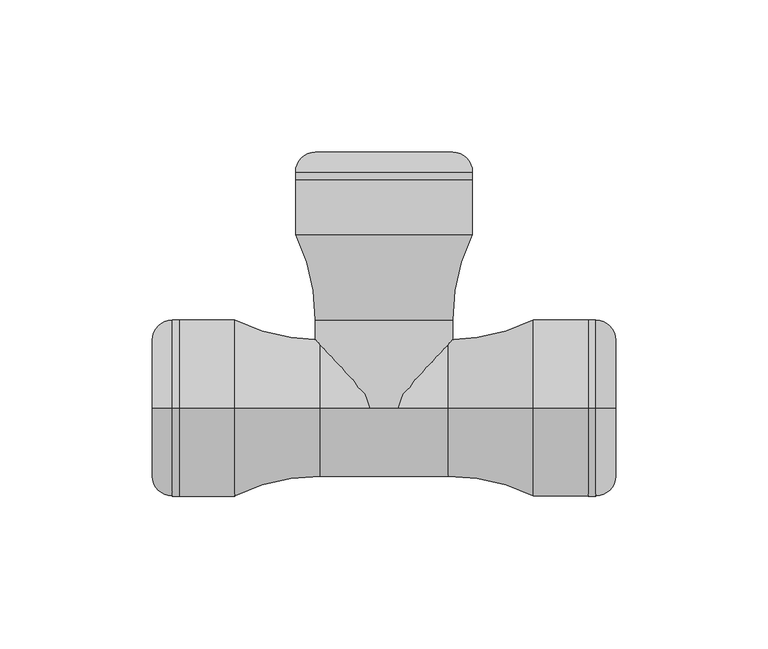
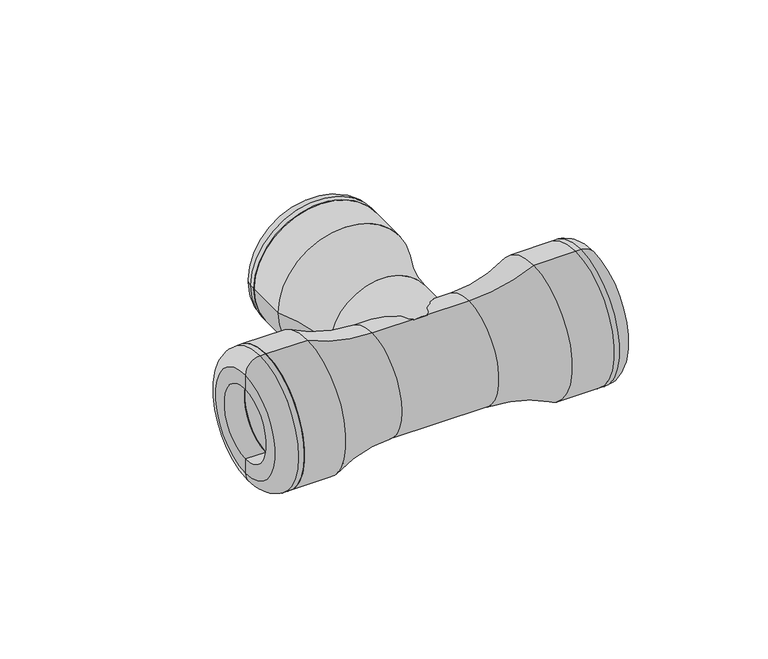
"""IFC4 building model written with IfcOpenShell, lengths in millimetres: pipe fitting geometry, Plumbing_Pipe-Fittings_Plasson_Tee-90_1004 : Plumbing_Pipe-Fittings_Plasson_Tee-90_1004."""

from ifc_helpers import new_model, si_unit, point, frame, origin, place, context, project, spatial, polyline, circle_curve, ellipse_curve, trimmed, source, transform, mapped, element, save
from ifc_brep_helpers import plane_surface, cylinder_surface, revolved_surface, advanced_brep


def pipe_fitting_1734e84b(model_context):
    return source(origin(), model_context, "Body", "AdvancedBrep", [
        advanced_brep(
        [(16.0, 75.0, 0.0), (-16.0, 75.0, 0.0), (-29.0, 75.0, 0.0), (29.0, 75.0, 0.0), (16.0, 84.0, 0.0), (-16.0, 84.0, 0.0), (22.5, 84.0, 0.0), (-22.5, 84.0, 0.0), (29.0, 77.5, 0.0), (-29.0, 77.5, 0.0)],
        [
            (0, 1, circle_curve(frame((0.0, 75.0, 0.0), z_axis=(0.0, 1.0, 0.0), x_axis=(-1.0, 0.0, 0.0)), 16.0)),
            (1, 2),
            (2, 3, circle_curve(frame((0.0, 75.0, 0.0), z_axis=(0.0, -1.0, 0.0), x_axis=(-1.0, 0.0, 0.0)), 29.0)),
            (3, 0),
            (1, 0, circle_curve(frame((0.0, 75.0, 0.0), z_axis=(0.0, 1.0, 0.0), x_axis=(-1.0, 0.0, 0.0)), 16.0)),
            (3, 2, circle_curve(frame((0.0, 75.0, 0.0), z_axis=(0.0, -1.0, 0.0), x_axis=(-1.0, 0.0, 0.0)), 29.0)),
            (4, 5, circle_curve(frame((0.0, 84.0, 0.0), z_axis=(0.0, 1.0, 0.0), x_axis=(-1.0, 0.0, 0.0)), 16.0)),
            (5, 1),
            (0, 4),
            (5, 4, circle_curve(frame((0.0, 84.0, 0.0), z_axis=(0.0, 1.0, 0.0), x_axis=(-1.0, 0.0, 0.0)), 16.0)),
            (6, 7, circle_curve(frame((0.0, 84.0, 0.0), z_axis=(0.0, 1.0, 0.0), x_axis=(-1.0, 0.0, 0.0)), 22.5)),
            (7, 5),
            (4, 6),
            (7, 6, circle_curve(frame((0.0, 84.0, 0.0), z_axis=(0.0, 1.0, 0.0), x_axis=(-1.0, 0.0, 0.0)), 22.5)),
            (8, 9, circle_curve(frame((0.0, 77.5, 0.0), z_axis=(0.0, 1.0, 0.0), x_axis=(-1.0, 0.0, 0.0)), 29.0)),
            (9, 7, circle_curve(frame((-22.5, 77.5, 0.0), z_axis=(0.0, 0.0, -1.0), x_axis=(1.0, 0.0, 0.0)), 6.5)),
            (6, 8, circle_curve(frame((22.5, 77.5, 0.0), z_axis=(0.0, 0.0, -1.0), x_axis=(-1.0, 0.0, 0.0)), 6.5)),
            (9, 8, circle_curve(frame((0.0, 77.5, 0.0), z_axis=(0.0, 1.0, 0.0), x_axis=(-1.0, 0.0, 0.0)), 29.0)),
            (2, 9),
            (8, 3),
        ],
        [
            plane_surface(frame((0.0, 75.0, 0.0), z_axis=(0.0, -1.0, 0.0), x_axis=(-1.0, 0.0, 0.0))),
            revolved_surface(polyline([(-16.0, 75.0, 0.0), (-16.0, 84.0, 0.0)]), (0.0, 87.8144029, 0.0), (0.0, -1.0, 0.0)),
            plane_surface(frame((0.0, 84.0, 0.0), z_axis=(0.0, 1.0, 0.0), x_axis=(-1.0, 0.0, 0.0))),
            revolved_surface(trimmed(ellipse_curve(frame((-22.5, 77.5, 0.0), z_axis=(0.0, 0.0, 1.0), x_axis=(1.0, 0.0, 0.0)), 6.5, 6.5), [point((-22.5, 84.0, 0.0))], [point((-29.0, 77.5, 0.0))], True, "CARTESIAN"), (0.0, 87.8144029, 0.0), (0.0, -1.0, 0.0)),
            cylinder_surface(frame((0.0, 87.8144029, 0.0), z_axis=(0.0, -1.0, 0.0), x_axis=(-1.0, 0.0, 0.0)), 29.0),
        ],
        [
            (0, [[1, 2, 3, 4]]),
            (0, [[5, -4, 6, -2]]),
            (1, [[7, 8, -1, 9]]),
            (1, [[10, -9, -5, -8]]),
            (2, [[11, 12, -7, 13]]),
            (2, [[14, -13, -10, -12]]),
            (3, [[15, 16, -11, 17]]),
            (3, [[18, -17, -14, -16]]),
            (4, [[-3, 19, -15, 20]]),
            (4, [[-6, -20, -18, -19]]),
        ],
    ),
        advanced_brep(
        [(29.0, 57.0, 0.0), (-29.0, 57.0, 0.0), (-29.0, 75.0, 0.0), (29.0, 75.0, 0.0), (16.0, 75.0, 0.0), (-16.0, 75.0, 0.0), (-16.0, 30.0, 0.0), (16.0, 30.0, 0.0), (22.5, 29.0, 0.0), (-22.5, 29.0, 0.0), (22.5, 0.0, 0.0), (-22.5, 0.0, 0.0), (14.0, 0.0, 0.0), (-14.0, 0.0, 0.0), (14.0, 30.0, 0.0), (-14.0, 30.0, 0.0)],
        [
            (0, 1, circle_curve(frame((0.0, 57.0, 0.0), z_axis=(0.0, 1.0, 0.0), x_axis=(-1.0, 0.0, 0.0)), 29.0)),
            (1, 2),
            (2, 3, circle_curve(frame((0.0, 75.0, 0.0), z_axis=(0.0, -1.0, 0.0), x_axis=(-1.0, 0.0, 0.0)), 29.0)),
            (3, 0),
            (1, 0, circle_curve(frame((0.0, 57.0, 0.0), z_axis=(0.0, 1.0, 0.0), x_axis=(-1.0, 0.0, 0.0)), 29.0)),
            (3, 2, circle_curve(frame((0.0, 75.0, 0.0), z_axis=(0.0, -1.0, 0.0), x_axis=(-1.0, 0.0, 0.0)), 29.0)),
            (4, 5, circle_curve(frame((0.0, 75.0, 0.0), z_axis=(0.0, 1.0, 0.0), x_axis=(-1.0, 0.0, 0.0)), 16.0)),
            (5, 6),
            (6, 7, circle_curve(frame((0.0, 30.0, 0.0), z_axis=(0.0, -1.0, 0.0), x_axis=(-1.0, 0.0, 0.0)), 16.0)),
            (7, 4),
            (5, 4, circle_curve(frame((0.0, 75.0, 0.0), z_axis=(0.0, 1.0, 0.0), x_axis=(-1.0, 0.0, 0.0)), 16.0)),
            (7, 6, circle_curve(frame((0.0, 30.0, 0.0), z_axis=(0.0, -1.0, 0.0), x_axis=(-1.0, 0.0, 0.0)), 16.0)),
            (2, 5),
            (4, 3),
            (8, 9, circle_curve(frame((0.0, 29.0, 0.0), z_axis=(0.0, 1.0, 0.0), x_axis=(-1.0, 0.0, 0.0)), 22.5)),
            (9, 1, circle_curve(frame((-86.0576923, 29.0, 0.0), z_axis=(0.0, 0.0, 1.0), x_axis=(1.0, 0.0, 0.0)), 63.5576923)),
            (0, 8, circle_curve(frame((86.0576923, 29.0, 0.0), z_axis=(0.0, 0.0, 1.0), x_axis=(-1.0, 0.0, 0.0)), 63.5576923)),
            (9, 8, circle_curve(frame((0.0, 29.0, 0.0), z_axis=(0.0, 1.0, 0.0), x_axis=(-1.0, 0.0, 0.0)), 22.5)),
            (10, 11, circle_curve(frame((0.0, 0.0, 0.0), z_axis=(0.0, 1.0, 0.0), x_axis=(-1.0, 0.0, 0.0)), 22.5)),
            (11, 9),
            (8, 10),
            (11, 10, circle_curve(frame((0.0, 0.0, 0.0), z_axis=(0.0, 1.0, 0.0), x_axis=(-1.0, 0.0, 0.0)), 22.5)),
            (12, 13, circle_curve(frame((0.0, 0.0, 0.0), z_axis=(0.0, 1.0, 0.0), x_axis=(-1.0, 0.0, 0.0)), 14.0)),
            (13, 11),
            (10, 12),
            (13, 12, circle_curve(frame((0.0, 0.0, 0.0), z_axis=(0.0, 1.0, 0.0), x_axis=(-1.0, 0.0, 0.0)), 14.0)),
            (14, 15, circle_curve(frame((0.0, 30.0, 0.0), z_axis=(0.0, 1.0, 0.0), x_axis=(-1.0, 0.0, 0.0)), 14.0)),
            (15, 13),
            (12, 14),
            (15, 14, circle_curve(frame((0.0, 30.0, 0.0), z_axis=(0.0, 1.0, 0.0), x_axis=(-1.0, 0.0, 0.0)), 14.0)),
            (6, 15),
            (14, 7),
        ],
        [
            cylinder_surface(frame((0.0, 75.0, 0.0), z_axis=(0.0, -1.0, 0.0), x_axis=(-1.0, 0.0, 0.0)), 29.0),
            revolved_surface(polyline([(-16.0, 30.0, 0.0), (-16.0, 75.0, 0.0)]), (0.0, 75.0, 0.0), (0.0, -1.0, 0.0)),
            plane_surface(frame((0.0, 75.0, 0.0), z_axis=(0.0, 1.0, 0.0), x_axis=(-1.0, 0.0, 0.0))),
            revolved_surface(trimmed(ellipse_curve(frame((-86.0576923, 29.0, 0.0), z_axis=(0.0, 0.0, -1.0), x_axis=(1.0, 0.0, 0.0)), 63.5576923, 63.5576923), [point((-29.0, 57.0, 0.0))], [point((-22.5, 29.0, 0.0))], True, "CARTESIAN"), (0.0, 75.0, 0.0), (0.0, -1.0, 0.0)),
            cylinder_surface(frame((0.0, 75.0, 0.0), z_axis=(0.0, -1.0, 0.0), x_axis=(-1.0, 0.0, 0.0)), 22.5),
            plane_surface(frame((0.0, 0.0, 0.0), z_axis=(0.0, -1.0, 0.0), x_axis=(-1.0, 0.0, 0.0))),
            revolved_surface(polyline([(-14.0, 0.0, 0.0), (-14.0, 30.0, 0.0)]), (0.0, 75.0, 0.0), (0.0, -1.0, 0.0)),
            plane_surface(frame((0.0, 30.0, 0.0), z_axis=(0.0, 1.0, 0.0), x_axis=(-1.0, 0.0, 0.0))),
        ],
        [
            (0, [[1, 2, 3, 4]]),
            (0, [[5, -4, 6, -2]]),
            (1, [[7, 8, 9, 10]]),
            (1, [[11, -10, 12, -8]]),
            (2, [[-3, 13, -7, 14]]),
            (2, [[-6, -14, -11, -13]]),
            (3, [[15, 16, -1, 17]]),
            (3, [[18, -17, -5, -16]]),
            (4, [[19, 20, -15, 21]]),
            (4, [[22, -21, -18, -20]]),
            (5, [[23, 24, -19, 25]]),
            (5, [[26, -25, -22, -24]]),
            (6, [[27, 28, -23, 29]]),
            (6, [[30, -29, -26, -28]]),
            (7, [[-9, 31, -27, 32]]),
            (7, [[-12, -32, -30, -31]]),
        ],
    ),
        advanced_brep(
        [(49.0, 0.0, -29.0), (49.0, 0.0, 29.0), (67.0, 0.0, 29.0), (67.0, 0.0, -29.0), (21.0, 0.0, -22.5), (21.0, 0.0, 22.5), (22.0, 0.0, -14.0), (22.0, 0.0, 14.0), (21.0, 0.0, 14.0), (21.0, 0.0, -14.0), (22.0, 0.0, -16.0), (22.0, 0.0, 16.0), (67.0, 0.0, -16.0), (67.0, 0.0, 16.0), (-21.0, 0.0, 22.5), (-21.0, 0.0, -22.5), (-21.0, 13.2251682, -18.2028824), (-21.0, 21.3987716, -6.9528824), (-21.0, 21.3987716, 6.9528824), (-21.0, 13.2251682, 18.2028824), (-21.0, -13.2251682, 18.2028824), (-21.0, -21.3987716, 6.9528824), (-21.0, -21.3987716, -6.9528824), (-21.0, -13.2251682, -18.2028824), (-21.0, 0.0, 14.0), (-21.0, 0.0, -14.0), (-67.0, 0.0, -16.0), (-67.0, 0.0, 16.0), (-67.0, 0.0, 29.0), (-67.0, 0.0, -29.0), (-22.0, 0.0, -16.0), (-22.0, 0.0, 16.0), (-22.0, 0.0, -14.0), (-22.0, 0.0, 14.0), (-49.0, 0.0, -29.0), (-49.0, 0.0, 29.0)],
        [
            (0, 1, circle_curve(frame((49.0, 0.0, 0.0), z_axis=(1.0, 0.0, 0.0), x_axis=(0.0, 0.0, 1.0)), 29.0)),
            (1, 2),
            (2, 3, circle_curve(frame((67.0, 0.0, 0.0), z_axis=(-1.0, 0.0, 0.0), x_axis=(0.0, 0.0, 1.0)), 29.0)),
            (3, 0),
            (1, 0, circle_curve(frame((49.0, 0.0, 0.0), z_axis=(1.0, 0.0, 0.0), x_axis=(0.0, 0.0, 1.0)), 29.0)),
            (3, 2, circle_curve(frame((67.0, 0.0, 0.0), z_axis=(-1.0, 0.0, 0.0), x_axis=(0.0, 0.0, 1.0)), 29.0)),
            (0, 4, circle_curve(frame((21.0, 0.0, -86.0576923), z_axis=(0.0, -1.0, 0.0), x_axis=(1.0, 0.0, 0.0)), 63.5576923)),
            (4, 5, circle_curve(frame((21.0, 0.0, 0.0), z_axis=(1.0, 0.0, 0.0), x_axis=(0.0, 0.0, 1.0)), 22.5)),
            (5, 1, circle_curve(frame((21.0, 0.0, 86.0576923), z_axis=(0.0, -1.0, 0.0), x_axis=(1.0, 0.0, 0.0)), 63.5576923)),
            (5, 4, circle_curve(frame((21.0, 0.0, 0.0), z_axis=(1.0, 0.0, 0.0), x_axis=(0.0, 0.0, 1.0)), 22.5)),
            (6, 7, circle_curve(frame((22.0, 0.0, 0.0), z_axis=(1.0, 0.0, 0.0), x_axis=(0.0, 0.0, 1.0)), 14.0)),
            (7, 8),
            (8, 9, circle_curve(frame((21.0, 0.0, 0.0), z_axis=(-1.0, 0.0, 0.0), x_axis=(0.0, 0.0, 1.0)), 14.0)),
            (9, 6),
            (7, 6, circle_curve(frame((22.0, 0.0, 0.0), z_axis=(1.0, 0.0, 0.0), x_axis=(0.0, 0.0, 1.0)), 14.0)),
            (9, 8, circle_curve(frame((21.0, 0.0, 0.0), z_axis=(-1.0, 0.0, 0.0), x_axis=(0.0, 0.0, 1.0)), 14.0)),
            (6, 10),
            (10, 11, circle_curve(frame((22.0, 0.0, 0.0), z_axis=(1.0, 0.0, 0.0), x_axis=(0.0, 0.0, 1.0)), 16.0)),
            (11, 7),
            (11, 10, circle_curve(frame((22.0, 0.0, 0.0), z_axis=(1.0, 0.0, 0.0), x_axis=(0.0, 0.0, 1.0)), 16.0)),
            (10, 12),
            (12, 13, circle_curve(frame((67.0, 0.0, 0.0), z_axis=(1.0, 0.0, 0.0), x_axis=(0.0, 0.0, 1.0)), 16.0)),
            (13, 11),
            (13, 12, circle_curve(frame((67.0, 0.0, 0.0), z_axis=(1.0, 0.0, 0.0), x_axis=(0.0, 0.0, 1.0)), 16.0)),
            (2, 13),
            (12, 3),
            (14, 5),
            (4, 15),
            (15, 16, circle_curve(frame((-21.0, 0.0, 0.0), z_axis=(1.0, 0.0, 0.0), x_axis=(0.0, 0.0, 1.0)), 22.5)),
            (16, 17, circle_curve(frame((-21.0, 0.0, 0.0), z_axis=(1.0, 0.0, 0.0), x_axis=(0.0, 0.0, 1.0)), 22.5)),
            (17, 18, circle_curve(frame((-21.0, 0.0, 0.0), z_axis=(1.0, 0.0, 0.0), x_axis=(0.0, 0.0, 1.0)), 22.5)),
            (18, 19, circle_curve(frame((-21.0, 0.0, 0.0), z_axis=(1.0, 0.0, 0.0), x_axis=(0.0, 0.0, 1.0)), 22.5)),
            (19, 14, circle_curve(frame((-21.0, 0.0, 0.0), z_axis=(1.0, 0.0, 0.0), x_axis=(0.0, 0.0, 1.0)), 22.5)),
            (14, 20, circle_curve(frame((-21.0, 0.0, 0.0), z_axis=(1.0, 0.0, 0.0), x_axis=(0.0, 0.0, 1.0)), 22.5)),
            (20, 21, circle_curve(frame((-21.0, 0.0, 0.0), z_axis=(1.0, 0.0, 0.0), x_axis=(0.0, 0.0, 1.0)), 22.5)),
            (21, 22, circle_curve(frame((-21.0, 0.0, 0.0), z_axis=(1.0, 0.0, 0.0), x_axis=(0.0, 0.0, 1.0)), 22.5)),
            (22, 23, circle_curve(frame((-21.0, 0.0, 0.0), z_axis=(1.0, 0.0, 0.0), x_axis=(0.0, 0.0, 1.0)), 22.5)),
            (23, 15, circle_curve(frame((-21.0, 0.0, 0.0), z_axis=(1.0, 0.0, 0.0), x_axis=(0.0, 0.0, 1.0)), 22.5)),
            (8, 24),
            (24, 25, circle_curve(frame((-21.0, 0.0, 0.0), z_axis=(-1.0, 0.0, 0.0), x_axis=(0.0, 0.0, 1.0)), 14.0)),
            (25, 9),
            (25, 24, circle_curve(frame((-21.0, 0.0, 0.0), z_axis=(-1.0, 0.0, 0.0), x_axis=(0.0, 0.0, 1.0)), 14.0)),
            (26, 27, circle_curve(frame((-67.0, 0.0, 0.0), z_axis=(1.0, 0.0, 0.0), x_axis=(0.0, 0.0, 1.0)), 16.0)),
            (27, 28),
            (28, 29, circle_curve(frame((-67.0, 0.0, 0.0), z_axis=(-1.0, 0.0, 0.0), x_axis=(0.0, 0.0, 1.0)), 29.0)),
            (29, 26),
            (27, 26, circle_curve(frame((-67.0, 0.0, 0.0), z_axis=(1.0, 0.0, 0.0), x_axis=(0.0, 0.0, 1.0)), 16.0)),
            (29, 28, circle_curve(frame((-67.0, 0.0, 0.0), z_axis=(-1.0, 0.0, 0.0), x_axis=(0.0, 0.0, 1.0)), 29.0)),
            (26, 30),
            (30, 31, circle_curve(frame((-22.0, 0.0, 0.0), z_axis=(1.0, 0.0, 0.0), x_axis=(0.0, 0.0, 1.0)), 16.0)),
            (31, 27),
            (31, 30, circle_curve(frame((-22.0, 0.0, 0.0), z_axis=(1.0, 0.0, 0.0), x_axis=(0.0, 0.0, 1.0)), 16.0)),
            (30, 32),
            (32, 33, circle_curve(frame((-22.0, 0.0, 0.0), z_axis=(1.0, 0.0, 0.0), x_axis=(0.0, 0.0, 1.0)), 14.0)),
            (33, 31),
            (33, 32, circle_curve(frame((-22.0, 0.0, 0.0), z_axis=(1.0, 0.0, 0.0), x_axis=(0.0, 0.0, 1.0)), 14.0)),
            (32, 25),
            (24, 33),
            (34, 35, circle_curve(frame((-49.0, 0.0, 0.0), z_axis=(1.0, 0.0, 0.0), x_axis=(0.0, 0.0, 1.0)), 29.0)),
            (35, 14, circle_curve(frame((-21.0, 0.0, 86.0576923), z_axis=(0.0, -1.0, 0.0), x_axis=(1.0, 0.0, 0.0)), 63.5576923)),
            (15, 34, circle_curve(frame((-21.0, 0.0, -86.0576923), z_axis=(0.0, -1.0, 0.0), x_axis=(1.0, 0.0, 0.0)), 63.5576923)),
            (35, 34, circle_curve(frame((-49.0, 0.0, 0.0), z_axis=(1.0, 0.0, 0.0), x_axis=(0.0, 0.0, 1.0)), 29.0)),
            (28, 35),
            (34, 29),
        ],
        [
            cylinder_surface(frame((-21.0, 0.0, 0.0), z_axis=(-1.0, 0.0, 0.0), x_axis=(0.0, 0.0, 1.0)), 29.0),
            revolved_surface(trimmed(ellipse_curve(frame((21.0, 0.0, 86.0576923), z_axis=(0.0, 1.0, 0.0), x_axis=(1.0, 0.0, 0.0)), 63.5576923, 63.5576923), [point((49.0, 0.0, 29.0))], [point((21.0, 0.0, 22.5))], True, "CARTESIAN"), (-21.0, 0.0, 0.0), (-1.0, 0.0, 0.0)),
            revolved_surface(polyline([(21.0, 0.0, 14.0), (22.0, 0.0, 14.0)]), (-21.0, 0.0, 0.0), (-1.0, 0.0, 0.0)),
            plane_surface(frame((22.0, 0.0, 0.0), z_axis=(1.0, 0.0, 0.0), x_axis=(0.0, 0.0, 1.0))),
            revolved_surface(polyline([(22.0, 0.0, 16.0), (67.0, 0.0, 16.0)]), (-21.0, 0.0, 0.0), (-1.0, 0.0, 0.0)),
            plane_surface(frame((67.0, 0.0, 0.0), z_axis=(1.0, 0.0, 0.0), x_axis=(0.0, 0.0, 1.0))),
            cylinder_surface(frame((-32.0, 0.0, 0.0), z_axis=(-1.0, 0.0, 0.0), x_axis=(0.0, 0.0, 1.0)), 22.5),
            revolved_surface(polyline([(-21.0, 0.0, 14.0), (21.0, 0.0, 14.0)]), (-32.0, 0.0, 0.0), (-1.0, 0.0, 0.0)),
            plane_surface(frame((-67.0, 0.0, 0.0), z_axis=(-1.0, 0.0, 0.0), x_axis=(0.0, 0.0, 1.0))),
            revolved_surface(polyline([(-67.0, 0.0, 16.0), (-22.0, 0.0, 16.0)]), (-67.0, 0.0, 0.0), (-1.0, 0.0, 0.0)),
            plane_surface(frame((-22.0, 0.0, 0.0), z_axis=(-1.0, 0.0, 0.0), x_axis=(0.0, 0.0, 1.0))),
            revolved_surface(polyline([(-22.0, 0.0, 14.0), (-21.0, 0.0, 14.0)]), (-67.0, 0.0, 0.0), (-1.0, 0.0, 0.0)),
            revolved_surface(trimmed(ellipse_curve(frame((-21.0, 0.0, 86.0576923), z_axis=(0.0, 1.0, 0.0), x_axis=(1.0, 0.0, 0.0)), 63.5576923, 63.5576923), [point((-21.0, 0.0, 22.5))], [point((-49.0, 0.0, 29.0))], True, "CARTESIAN"), (-67.0, 0.0, 0.0), (-1.0, 0.0, 0.0)),
            cylinder_surface(frame((-67.0, 0.0, 0.0), z_axis=(-1.0, 0.0, 0.0), x_axis=(0.0, 0.0, 1.0)), 29.0),
        ],
        [
            (0, [[1, 2, 3, 4]]),
            (0, [[-2, 5, -4, 6]]),
            (1, [[-1, 7, 8, 9]]),
            (1, [[-5, -9, 10, -7]]),
            (2, [[11, 12, 13, 14]]),
            (2, [[-12, 15, -14, 16]]),
            (3, [[-11, 17, 18, 19]]),
            (3, [[-15, -19, 20, -17]]),
            (4, [[-18, 21, 22, 23]]),
            (4, [[-20, -23, 24, -21]]),
            (5, [[-3, 25, -22, 26]]),
            (5, [[-6, -26, -24, -25]]),
            (6, [[27, -8, 28, 29, 30, 31, 32, 33]]),
            (6, [[-27, 34, 35, 36, 37, 38, -28, -10]]),
            (7, [[39, 40, 41, -13]]),
            (7, [[-39, -16, -41, 42]]),
            (8, [[43, 44, 45, 46]]),
            (8, [[-44, 47, -46, 48]]),
            (9, [[-43, 49, 50, 51]]),
            (9, [[-47, -51, 52, -49]]),
            (10, [[-50, 53, 54, 55]]),
            (10, [[-52, -55, 56, -53]]),
            (11, [[-54, 57, -40, 58]]),
            (11, [[-56, -58, -42, -57]]),
            (12, [[59, 60, -33, -32, -31, -30, -29, 61]]),
            (12, [[-60, 62, -61, -38, -37, -36, -35, -34]]),
            (13, [[-45, 63, -59, 64]]),
            (13, [[-48, -64, -62, -63]]),
        ],
    ),
        advanced_brep(
        [(76.0, 0.0, -16.0), (76.0, 0.0, 16.0), (67.0, 0.0, 16.0), (67.0, 0.0, -16.0), (76.0, 0.0, -22.5), (76.0, 0.0, 22.5), (69.5, 0.0, -29.0), (69.5, 0.0, 29.0), (67.0, 0.0, -29.0), (67.0, 0.0, 29.0)],
        [
            (0, 1, circle_curve(frame((76.0, 0.0, 0.0), z_axis=(1.0, 0.0, 0.0), x_axis=(0.0, 0.0, 1.0)), 16.0)),
            (1, 2),
            (2, 3, circle_curve(frame((67.0, 0.0, 0.0), z_axis=(-1.0, 0.0, 0.0), x_axis=(0.0, 0.0, 1.0)), 16.0)),
            (3, 0),
            (1, 0, circle_curve(frame((76.0, 0.0, 0.0), z_axis=(1.0, 0.0, 0.0), x_axis=(0.0, 0.0, 1.0)), 16.0)),
            (3, 2, circle_curve(frame((67.0, 0.0, 0.0), z_axis=(-1.0, 0.0, 0.0), x_axis=(0.0, 0.0, 1.0)), 16.0)),
            (4, 5, circle_curve(frame((76.0, 0.0, 0.0), z_axis=(1.0, 0.0, 0.0), x_axis=(0.0, 0.0, 1.0)), 22.5)),
            (5, 1),
            (0, 4),
            (5, 4, circle_curve(frame((76.0, 0.0, 0.0), z_axis=(1.0, 0.0, 0.0), x_axis=(0.0, 0.0, 1.0)), 22.5)),
            (6, 7, circle_curve(frame((69.5, 0.0, 0.0), z_axis=(1.0, 0.0, 0.0), x_axis=(0.0, 0.0, 1.0)), 29.0)),
            (7, 5, circle_curve(frame((69.5, 0.0, 22.5), z_axis=(0.0, 1.0, 0.0), x_axis=(1.0, 0.0, 0.0)), 6.5)),
            (4, 6, circle_curve(frame((69.5, 0.0, -22.5), z_axis=(0.0, 1.0, 0.0), x_axis=(1.0, 0.0, 0.0)), 6.5)),
            (7, 6, circle_curve(frame((69.5, 0.0, 0.0), z_axis=(1.0, 0.0, 0.0), x_axis=(0.0, 0.0, 1.0)), 29.0)),
            (8, 9, circle_curve(frame((67.0, 0.0, 0.0), z_axis=(1.0, 0.0, 0.0), x_axis=(0.0, 0.0, 1.0)), 29.0)),
            (9, 7),
            (6, 8),
            (9, 8, circle_curve(frame((67.0, 0.0, 0.0), z_axis=(1.0, 0.0, 0.0), x_axis=(0.0, 0.0, 1.0)), 29.0)),
            (2, 9),
            (8, 3),
        ],
        [
            revolved_surface(polyline([(67.0, 0.0, 16.0), (76.0, 0.0, 16.0)]), (55.4471637, 0.0, 0.0), (-1.0, 0.0, 0.0)),
            plane_surface(frame((76.0, 0.0, 0.0), z_axis=(1.0, 0.0, 0.0), x_axis=(0.0, 0.0, 1.0))),
            revolved_surface(trimmed(ellipse_curve(frame((69.5, 0.0, 22.5), z_axis=(0.0, -1.0, 0.0), x_axis=(1.0, 0.0, 0.0)), 6.5, 6.5), [point((76.0, 0.0, 22.5))], [point((69.5, 0.0, 29.0))], True, "CARTESIAN"), (55.4471637, 0.0, 0.0), (-1.0, 0.0, 0.0)),
            cylinder_surface(frame((55.4471637, 0.0, 0.0), z_axis=(-1.0, 0.0, 0.0), x_axis=(0.0, 0.0, 1.0)), 29.0),
            plane_surface(frame((67.0, 0.0, 0.0), z_axis=(-1.0, 0.0, 0.0), x_axis=(0.0, 0.0, 1.0))),
        ],
        [
            (0, [[1, 2, 3, 4]]),
            (0, [[5, -4, 6, -2]]),
            (1, [[7, 8, -1, 9]]),
            (1, [[10, -9, -5, -8]]),
            (2, [[11, 12, -7, 13]]),
            (2, [[14, -13, -10, -12]]),
            (3, [[15, 16, -11, 17]]),
            (3, [[18, -17, -14, -16]]),
            (4, [[-3, 19, -15, 20]]),
            (4, [[-6, -20, -18, -19]]),
        ],
    ),
        advanced_brep(
        [(-67.0, 0.0, -29.0), (-67.0, 0.0, 29.0), (-67.0, 0.0, 16.0), (-67.0, 0.0, -16.0), (-69.5, 0.0, -29.0), (-69.5, 0.0, 29.0), (-76.0, 0.0, -22.5), (-76.0, 0.0, 22.5), (-76.0, 0.0, -16.0), (-76.0, 0.0, 16.0)],
        [
            (0, 1, circle_curve(frame((-67.0, 0.0, 0.0), z_axis=(1.0, 0.0, 0.0), x_axis=(0.0, 0.0, 1.0)), 29.0)),
            (1, 2),
            (2, 3, circle_curve(frame((-67.0, 0.0, 0.0), z_axis=(-1.0, 0.0, 0.0), x_axis=(0.0, 0.0, 1.0)), 16.0)),
            (3, 0),
            (1, 0, circle_curve(frame((-67.0, 0.0, 0.0), z_axis=(1.0, 0.0, 0.0), x_axis=(0.0, 0.0, 1.0)), 29.0)),
            (3, 2, circle_curve(frame((-67.0, 0.0, 0.0), z_axis=(-1.0, 0.0, 0.0), x_axis=(0.0, 0.0, 1.0)), 16.0)),
            (4, 5, circle_curve(frame((-69.5, 0.0, 0.0), z_axis=(1.0, 0.0, 0.0), x_axis=(0.0, 0.0, 1.0)), 29.0)),
            (5, 1),
            (0, 4),
            (5, 4, circle_curve(frame((-69.5, 0.0, 0.0), z_axis=(1.0, 0.0, 0.0), x_axis=(0.0, 0.0, 1.0)), 29.0)),
            (6, 7, circle_curve(frame((-76.0, 0.0, 0.0), z_axis=(1.0, 0.0, 0.0), x_axis=(0.0, 0.0, 1.0)), 22.5)),
            (7, 5, circle_curve(frame((-69.5, 0.0, 22.5), z_axis=(0.0, 1.0, 0.0), x_axis=(1.0, 0.0, 0.0)), 6.5)),
            (4, 6, circle_curve(frame((-69.5, 0.0, -22.5), z_axis=(0.0, 1.0, 0.0), x_axis=(1.0, 0.0, 0.0)), 6.5)),
            (7, 6, circle_curve(frame((-76.0, 0.0, 0.0), z_axis=(1.0, 0.0, 0.0), x_axis=(0.0, 0.0, 1.0)), 22.5)),
            (8, 9, circle_curve(frame((-76.0, 0.0, 0.0), z_axis=(1.0, 0.0, 0.0), x_axis=(0.0, 0.0, 1.0)), 16.0)),
            (9, 7),
            (6, 8),
            (9, 8, circle_curve(frame((-76.0, 0.0, 0.0), z_axis=(1.0, 0.0, 0.0), x_axis=(0.0, 0.0, 1.0)), 16.0)),
            (2, 9),
            (8, 3),
        ],
        [
            plane_surface(frame((-67.0, 0.0, 0.0), z_axis=(1.0, 0.0, 0.0), x_axis=(0.0, 0.0, 1.0))),
            cylinder_surface(frame((-81.0, 0.0, 0.0), z_axis=(-1.0, 0.0, 0.0), x_axis=(0.0, 0.0, 1.0)), 29.0),
            revolved_surface(trimmed(ellipse_curve(frame((-69.5, 0.0, 22.5), z_axis=(0.0, -1.0, 0.0), x_axis=(1.0, 0.0, 0.0)), 6.5, 6.5), [point((-69.5, 0.0, 29.0))], [point((-76.0, 0.0, 22.5))], True, "CARTESIAN"), (-81.0, 0.0, 0.0), (-1.0, 0.0, 0.0)),
            plane_surface(frame((-76.0, 0.0, 0.0), z_axis=(-1.0, 0.0, 0.0), x_axis=(0.0, 0.0, 1.0))),
            revolved_surface(polyline([(-76.0, 0.0, 16.0), (-67.0, 0.0, 16.0)]), (-81.0, 0.0, 0.0), (-1.0, 0.0, 0.0)),
        ],
        [
            (0, [[1, 2, 3, 4]]),
            (0, [[5, -4, 6, -2]]),
            (1, [[7, 8, -1, 9]]),
            (1, [[10, -9, -5, -8]]),
            (2, [[11, 12, -7, 13]]),
            (2, [[14, -13, -10, -12]]),
            (3, [[15, 16, -11, 17]]),
            (3, [[18, -17, -14, -16]]),
            (4, [[-3, 19, -15, 20]]),
            (4, [[-6, -20, -18, -19]]),
        ],
    ),
    ])


if __name__ == "__main__":
    model = new_model("IFC4")
    model_context = context("Model", 3, world=origin())
    ifc_project = project(units=[si_unit("LENGTHUNIT", "METRE", prefix="MILLI")], contexts=[model_context])
    site = spatial("IfcSite", under=ifc_project)
    building = spatial("IfcBuilding", under=site)
    placement = place(None, origin())
    pipe_fitting_shape = pipe_fitting_1734e84b(model_context)
    element("IfcPipeFitting", 1, ObjectType="Plumbing_Pipe-Fittings_Plasson_Tee-90_1004 : Plumbing_Pipe-Fittings_Plasson_Tee-90_1004", at=placement, inside=building, context=model_context, shape_type="MappedRepresentation", body=[
        mapped(pipe_fitting_shape, transform((0.0, 0.0, 0.0), x_axis=(1.0, 0.0, 0.0), y_axis=(0.0, 1.0, 0.0), z_axis=(0.0, 0.0, 1.0))),
    ])
    save(model, "model.ifc")
